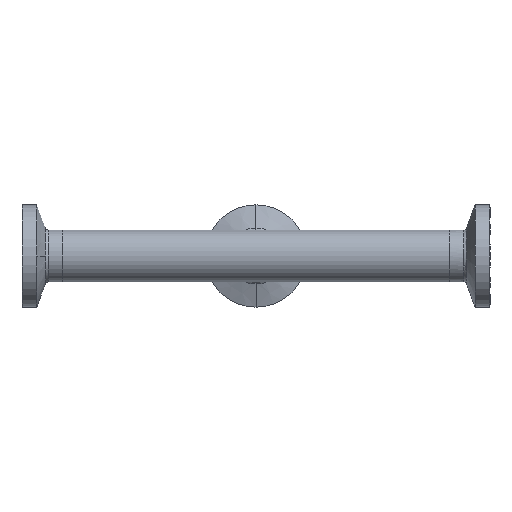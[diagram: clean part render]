
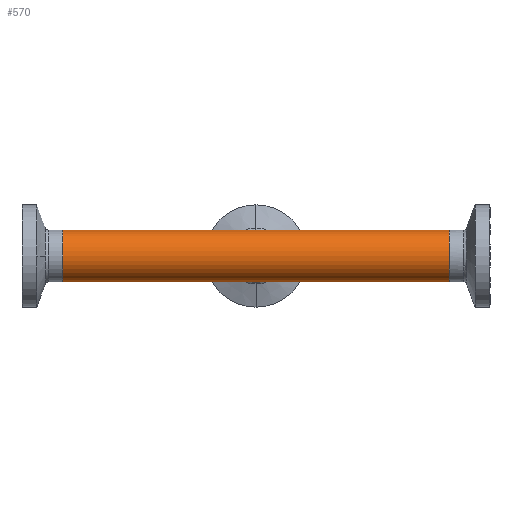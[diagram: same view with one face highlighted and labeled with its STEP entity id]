
A CAD part, front view. The second image highlights one B-rep face of the part: STEP entity #570.
In plain terms, the highlighted cylindrical face has radius 6.35 mm (diameter 12.7 mm), a partial arc.
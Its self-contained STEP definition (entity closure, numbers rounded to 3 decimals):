
#14 = VECTOR ( 'NONE', #493, 1000. ) ;
#61 = VERTEX_POINT ( 'NONE', #1374 ) ;
#65 = CARTESIAN_POINT ( 'NONE',  ( 0., 0., -6.35 ) ) ;
#82 = LINE ( 'NONE', #410, #14 ) ;
#109 = ORIENTED_EDGE ( 'NONE', *, *, #271, .T. ) ;
#171 = DIRECTION ( 'NONE',  ( 1., 0., 0. ) ) ;
#207 = DIRECTION ( 'NONE',  ( -1., 0., 0. ) ) ;
#271 = EDGE_CURVE ( 'NONE', #1748, #736, #1131, .T. ) ;
#342 = CARTESIAN_POINT ( 'NONE',  ( 65.161, 0., 0. ) ) ;
#410 = CARTESIAN_POINT ( 'NONE',  ( 65.161, 0., 6.35 ) ) ;
#482 = ORIENTED_EDGE ( 'NONE', *, *, #1690, .T. ) ;
#493 = DIRECTION ( 'NONE',  ( -1., 0., 0. ) ) ;
#553 = VERTEX_POINT ( 'NONE', #1025 ) ;
#570 = ADVANCED_FACE ( 'NONE', ( #663 ), #2210, .T. ) ;
#611 = ORIENTED_EDGE ( 'NONE', *, *, #1904, .F. ) ;
#621 = EDGE_LOOP ( 'NONE', ( #1452, #109, #2214, #2594, #482, #611 ) ) ;
#637 = AXIS2_PLACEMENT_3D ( 'NONE', #926, #171, #641 ) ;
#641 = DIRECTION ( 'NONE',  ( 0., 0., 1. ) ) ;
#662 = CARTESIAN_POINT ( 'NONE',  ( 47.2, 0., 6.35 ) ) ;
#663 = FACE_OUTER_BOUND ( 'NONE', #621, .T. ) ;
#718 = DIRECTION ( 'NONE',  ( -1., 0., 0. ) ) ;
#736 = VERTEX_POINT ( 'NONE', #662 ) ;
#811 = AXIS2_PLACEMENT_3D ( 'NONE', #342, #207, #922 ) ;
#831 = CARTESIAN_POINT ( 'NONE',  ( 47.2, 0., -6.35 ) ) ;
#910 = DIRECTION ( 'NONE',  ( -1., 0., 0. ) ) ;
#921 = AXIS2_PLACEMENT_3D ( 'NONE', #1360, #1572, #1353 ) ;
#922 = DIRECTION ( 'NONE',  ( 0., 0., 1. ) ) ;
#926 = CARTESIAN_POINT ( 'NONE',  ( -47.2, 0., 0. ) ) ;
#961 = VERTEX_POINT ( 'NONE', #65 ) ;
#1025 = CARTESIAN_POINT ( 'NONE',  ( -47.2, 0., -6.35 ) ) ;
#1131 = CIRCLE ( 'NONE', #921, 6.35 ) ;
#1170 = VECTOR ( 'NONE', #910, 1000. ) ;
#1229 = VECTOR ( 'NONE', #1920, 1000. ) ;
#1233 = LINE ( 'NONE', #2571, #1170 ) ;
#1254 = VECTOR ( 'NONE', #718, 1000. ) ;
#1353 = DIRECTION ( 'NONE',  ( 0., 0., 1. ) ) ;
#1360 = CARTESIAN_POINT ( 'NONE',  ( 47.2, 0., 0. ) ) ;
#1374 = CARTESIAN_POINT ( 'NONE',  ( 0., 0., 6.35 ) ) ;
#1452 = ORIENTED_EDGE ( 'NONE', *, *, #1571, .F. ) ;
#1532 = CARTESIAN_POINT ( 'NONE',  ( 65.161, 0., -6.35 ) ) ;
#1571 = EDGE_CURVE ( 'NONE', #1748, #961, #1233, .T. ) ;
#1572 = DIRECTION ( 'NONE',  ( -1., 0., 0. ) ) ;
#1690 = EDGE_CURVE ( 'NONE', #1807, #553, #2181, .T. ) ;
#1727 = CARTESIAN_POINT ( 'NONE',  ( -47.2, 0., 6.35 ) ) ;
#1748 = VERTEX_POINT ( 'NONE', #831 ) ;
#1786 = LINE ( 'NONE', #1532, #1229 ) ;
#1807 = VERTEX_POINT ( 'NONE', #1727 ) ;
#1904 = EDGE_CURVE ( 'NONE', #961, #553, #1786, .T. ) ;
#1920 = DIRECTION ( 'NONE',  ( -1., 0., 0. ) ) ;
#2181 = CIRCLE ( 'NONE', #637, 6.35 ) ;
#2210 = CYLINDRICAL_SURFACE ( 'NONE', #811, 6.35 ) ;
#2214 = ORIENTED_EDGE ( 'NONE', *, *, #2248, .T. ) ;
#2248 = EDGE_CURVE ( 'NONE', #736, #61, #82, .T. ) ;
#2349 = LINE ( 'NONE', #2606, #1254 ) ;
#2455 = EDGE_CURVE ( 'NONE', #61, #1807, #2349, .T. ) ;
#2571 = CARTESIAN_POINT ( 'NONE',  ( 65.161, 0., -6.35 ) ) ;
#2594 = ORIENTED_EDGE ( 'NONE', *, *, #2455, .T. ) ;
#2606 = CARTESIAN_POINT ( 'NONE',  ( 65.161, 0., 6.35 ) ) ;
